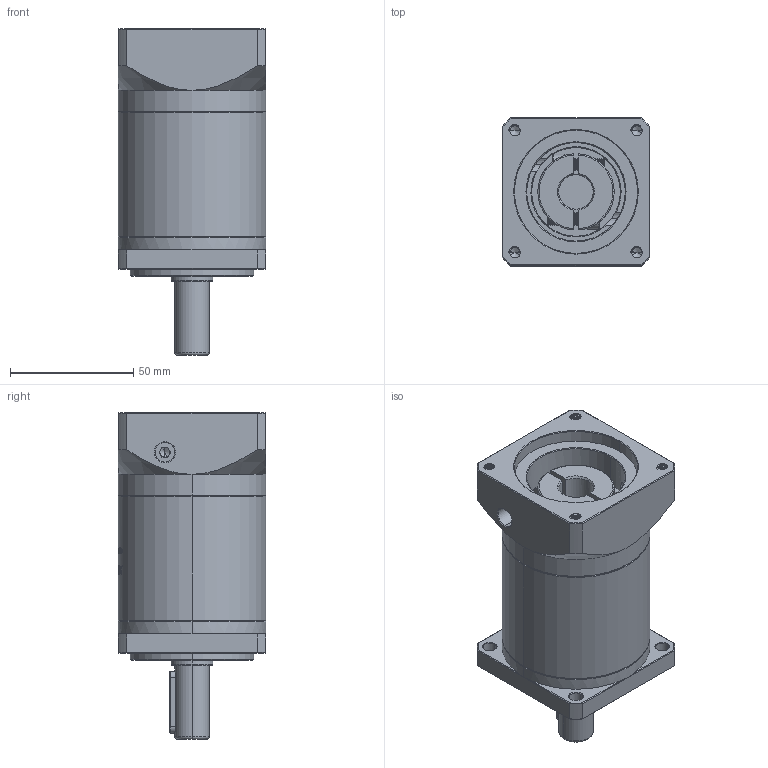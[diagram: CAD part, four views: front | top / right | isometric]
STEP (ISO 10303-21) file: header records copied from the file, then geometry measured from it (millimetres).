
FILE_DESCRIPTION (( 'STEP AP214' ), '1' );
FILE_NAME ('ZF060-D14-L2-P2-14-50-70-M5.step', '2023-08-16T04:23:28', ( '' ), ( '' ), 'SwSTEP 2.0', 'SolidWorks 2016', '' );
FILE_SCHEMA (( 'AUTOMOTIVE_DESIGN' ));
Length unit declared in the file: millimetre
Products named in the file (1): ZF060-D14-L2-P2-14-50-70-M5
Bounding box: 60 x 60 x 132.5 mm (x, y, z)
Volume: 270051.8 mm3; surface area: 47382 mm2
Topology: 6 solids, 6 shells, 1766 faces, 4783 edges, 3100 vertices
Faces by surface type: plane 794, cylinder 364, bspline 354, cone 234, torus 20
Entity records: 101470 total; most frequent: CARTESIAN_POINT 41872, ORIENTED_EDGE 9538, DIRECTION 6826, EDGE_CURVE 4769, VERTEX_POINT 3100, LINE 2426, VECTOR 2426, AXIS2_PLACEMENT_3D 2200
